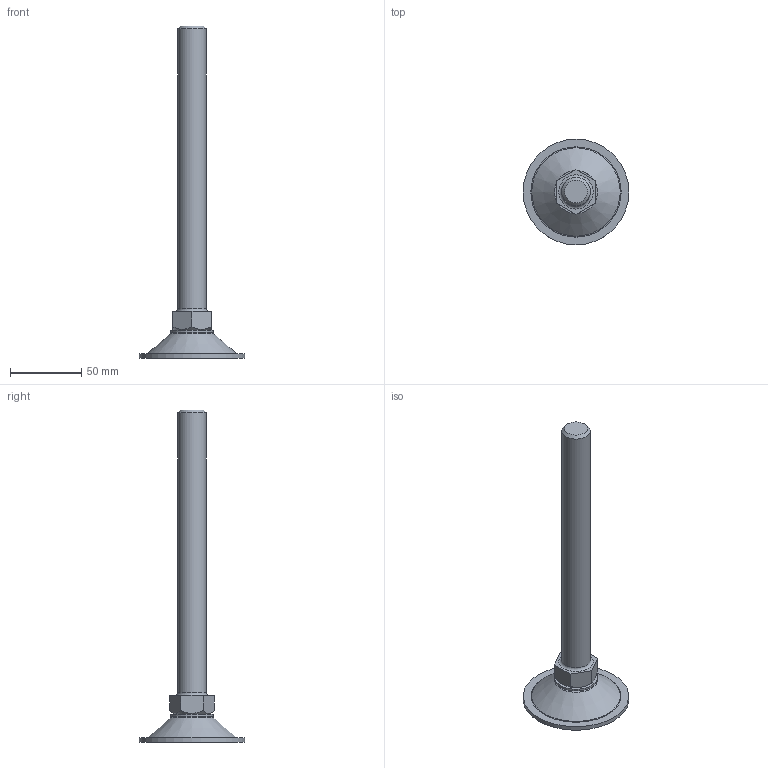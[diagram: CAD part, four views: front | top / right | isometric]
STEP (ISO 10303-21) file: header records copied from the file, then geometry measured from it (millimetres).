
FILE_DESCRIPTION(/* description */ (''),/* implementation_level */ '2;1');
FILE_NAME(/* name */ 'D:\조절자\PF\PF-M20-200L.stp',/* time_stamp */ '2016-03-14T14:54:11+09:00',/* author */ ('GS-DT-1-001'),/* organization */ (''),/* preprocessor_version */ 'ST-DEVELOPER v15.6',/* originating_system */ 'Autodesk Inventor LT ',/* authorisation */ '');
FILE_SCHEMA (('AUTOMOTIVE_DESIGN { 1 0 10303 214 3 1 1 }'));
Length unit declared in the file: millimetre
Products named in the file (1): PF-M20-200L
Bounding box: 74 x 74 x 232.5 mm (x, y, z)
Volume: 86356.3 mm3; surface area: 27389.1 mm2
Topology: 3 solids, 3 shells, 31 faces, 62 edges, 41 vertices
Faces by surface type: plane 16, cylinder 6, torus 5, cone 4
Full cylindrical faces by diameter (mm): 7.153 x1, 8.2 x1, 8.8 x1, 20 x1, 30 x1, 74 x1
Entity records: 706 total; most frequent: DIRECTION 122, CARTESIAN_POINT 120, ORIENTED_EDGE 82, AXIS2_PLACEMENT_3D 55, EDGE_LOOP 54, EDGE_CURVE 41, VERTEX_POINT 35, FACE_OUTER_BOUND 31
